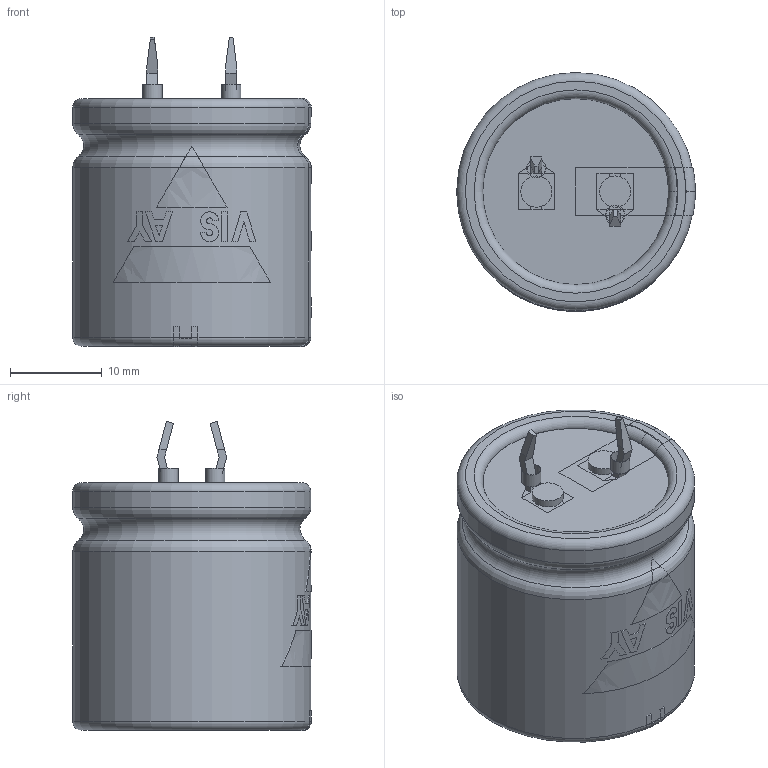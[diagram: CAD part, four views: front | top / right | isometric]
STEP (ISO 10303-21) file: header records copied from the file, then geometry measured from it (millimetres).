
FILE_DESCRIPTION(('FreeCAD Model'),'2;1');
FILE_NAME( 'C:/Users/Gebruiker/Documents/FreeCAD/SnapIn_25x25_2pin_5.8.step', '2020-11-12T20:01:43',('Author'),(''), 'Open CASCADE STEP processor 6.8','FreeCAD','Unknown');
FILE_SCHEMA(('AUTOMOTIVE_DESIGN_CC2 { 1 2 10303 214 -1 1 5 4 }'));
Length unit declared in the file: millimetre
Products named in the file (9): ASSEMBLY; TerminalMin; TerminalPlus; PCBHoles; Disc; BottomInsulation; Can3D; InkMinusBar; InkLogo
Assembly tree (8 placements, depth 2):
  ASSEMBLY
    TerminalMin
    TerminalPlus
    PCBHoles
    Disc
    BottomInsulation
    Can3D
    InkMinusBar
    InkLogo
Bounding box: 26.05 x 26.05 x 33.75 mm (x, y, z)
Volume: 16349.1 mm3; surface area: 8347 mm2
Topology: 16 solids, 16 shells, 197 faces, 482 edges, 316 vertices
Faces by surface type: plane 144, cylinder 32, torus 21
Full cylindrical faces by diameter (mm): 2 x2, 2.1 x2, 3.4 x2, 20.3 x1, 20.8 x2, 26 x2
Entity records: 22371 total; most frequent: CARTESIAN_POINT 11635, DIRECTION 1649, ORIENTED_EDGE 964, PCURVE 964, DEFINITIONAL_REPRESENTATION 964, LINE 891, VECTOR 891, EDGE_CURVE 482
